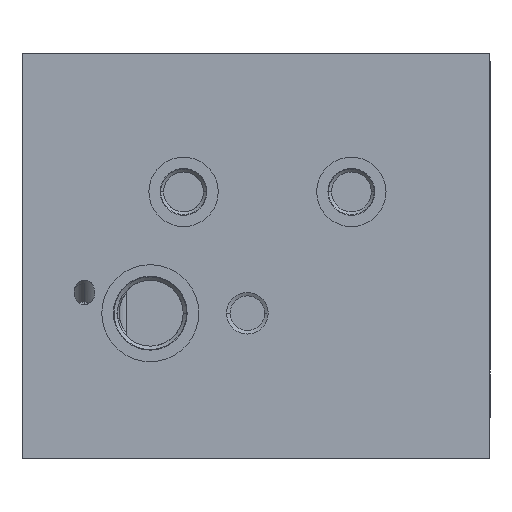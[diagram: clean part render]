
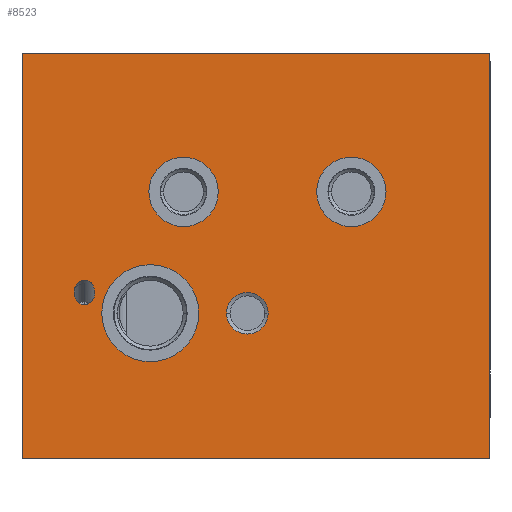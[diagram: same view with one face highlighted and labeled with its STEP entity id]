
A CAD part, left-side view. The second image highlights one B-rep face of the part: STEP entity #8523.
In plain terms, the highlighted planar face has unit normal (-1, 0, 0).
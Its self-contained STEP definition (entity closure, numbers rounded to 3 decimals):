
#542=DIRECTION('',(0.,0.,-1.));
#543=VECTOR('',#542,117.);
#544=CARTESIAN_POINT('',(-90.,0.,0.));
#545=LINE('',#544,#543);
#549=DIRECTION('',(0.,1.,0.));
#550=VECTOR('',#549,135.);
#551=CARTESIAN_POINT('',(-90.,0.,-117.));
#552=LINE('',#551,#550);
#556=DIRECTION('',(0.,0.,1.));
#557=VECTOR('',#556,117.);
#558=CARTESIAN_POINT('',(-90.,135.,-117.));
#559=LINE('',#558,#557);
#563=DIRECTION('',(0.,-1.,0.));
#564=VECTOR('',#563,135.);
#565=CARTESIAN_POINT('',(-90.,135.,0.));
#566=LINE('',#565,#564);
#570=CARTESIAN_POINT('',(-90.,70.,-75.));
#571=DIRECTION('',(1.,0.,0.));
#572=DIRECTION('',(0.,-1.,0.));
#573=AXIS2_PLACEMENT_3D('',#570,#571,#572);
#578=CARTESIAN_POINT('',(-90.,70.,-75.));
#579=DIRECTION('',(1.,0.,0.));
#580=DIRECTION('',(0.,1.,0.));
#581=AXIS2_PLACEMENT_3D('',#578,#579,#580);
#586=CARTESIAN_POINT('',(-90.,40.,-40.));
#587=DIRECTION('',(1.,0.,0.));
#588=DIRECTION('',(0.,-1.,0.));
#589=AXIS2_PLACEMENT_3D('',#586,#587,#588);
#594=CARTESIAN_POINT('',(-90.,40.,-40.));
#595=DIRECTION('',(1.,0.,0.));
#596=DIRECTION('',(0.,1.,0.));
#597=AXIS2_PLACEMENT_3D('',#594,#595,#596);
#602=CARTESIAN_POINT('',(-90.,120.,-69.));
#603=CARTESIAN_POINT('',(-90.,120.,-69.272));
#604=CARTESIAN_POINT('',(-90.,119.949,-69.766));
#605=CARTESIAN_POINT('',(-90.,119.771,-70.406));
#606=CARTESIAN_POINT('',(-90.,119.513,-70.965));
#607=CARTESIAN_POINT('',(-90.,119.184,-71.452));
#608=CARTESIAN_POINT('',(-90.,118.783,-71.869));
#609=CARTESIAN_POINT('',(-90.,118.306,-72.209));
#610=CARTESIAN_POINT('',(-90.,117.832,-72.416));
#611=CARTESIAN_POINT('',(-90.,117.387,-72.516));
#612=CARTESIAN_POINT('',(-90.,117.136,-72.538));
#613=CARTESIAN_POINT('',(-90.,117.,-72.538));
#618=CARTESIAN_POINT('',(-90.,88.4,-40.));
#619=DIRECTION('',(1.,0.,0.));
#620=DIRECTION('',(0.,-1.,0.));
#621=AXIS2_PLACEMENT_3D('',#618,#619,#620);
#626=CARTESIAN_POINT('',(-90.,88.4,-40.));
#627=DIRECTION('',(1.,0.,0.));
#628=DIRECTION('',(0.,1.,0.));
#629=AXIS2_PLACEMENT_3D('',#626,#627,#628);
#634=CARTESIAN_POINT('',(-90.,98.,-75.));
#635=DIRECTION('',(1.,0.,0.));
#636=DIRECTION('',(0.,-1.,0.));
#637=AXIS2_PLACEMENT_3D('',#634,#635,#636);
#642=CARTESIAN_POINT('',(-90.,98.,-75.));
#643=DIRECTION('',(1.,0.,0.));
#644=DIRECTION('',(0.,1.,0.));
#645=AXIS2_PLACEMENT_3D('',#642,#643,#644);
#6386=CARTESIAN_POINT('',(-90.,120.,-69.));
#6387=CARTESIAN_POINT('',(-90.,120.,-68.728));
#6388=CARTESIAN_POINT('',(-90.,119.947,-68.139));
#6389=CARTESIAN_POINT('',(-90.,119.631,-67.191));
#6390=CARTESIAN_POINT('',(-90.,119.03,-66.309));
#6391=CARTESIAN_POINT('',(-90.,118.17,-65.669));
#6392=CARTESIAN_POINT('',(-90.,117.344,-65.449));
#6393=CARTESIAN_POINT('',(-90.,116.701,-65.465));
#6394=CARTESIAN_POINT('',(-90.,116.245,-65.563));
#6395=CARTESIAN_POINT('',(-90.,115.828,-65.731));
#6396=CARTESIAN_POINT('',(-90.,115.458,-65.953));
#6397=CARTESIAN_POINT('',(-90.,115.193,-66.17));
#6398=CARTESIAN_POINT('',(-90.,115.005,-66.355));
#6399=CARTESIAN_POINT('',(-90.,114.878,-66.497));
#6400=CARTESIAN_POINT('',(-90.,114.757,-66.647));
#6401=CARTESIAN_POINT('',(-90.,114.6,-66.869));
#6402=CARTESIAN_POINT('',(-90.,114.416,-67.182));
#6403=CARTESIAN_POINT('',(-90.,114.227,-67.618));
#6404=CARTESIAN_POINT('',(-90.,114.085,-68.11));
#6405=CARTESIAN_POINT('',(-90.,114.002,-68.648));
#6406=CARTESIAN_POINT('',(-90.,113.989,-69.406));
#6407=CARTESIAN_POINT('',(-90.,114.175,-70.38));
#6408=CARTESIAN_POINT('',(-90.,114.718,-71.393));
#6409=CARTESIAN_POINT('',(-90.,115.466,-72.103));
#6410=CARTESIAN_POINT('',(-90.,116.27,-72.475));
#6411=CARTESIAN_POINT('',(-90.,116.769,-72.538));
#6412=CARTESIAN_POINT('',(-90.,117.,-72.538));
#7367=CARTESIAN_POINT('',(-90.,0.,0.));
#7368=CARTESIAN_POINT('',(-90.,0.,-117.));
#7369=VERTEX_POINT('',#7367);
#7370=VERTEX_POINT('',#7368);
#7371=CARTESIAN_POINT('',(-90.,135.,-117.));
#7372=VERTEX_POINT('',#7371);
#7373=CARTESIAN_POINT('',(-90.,135.,0.));
#7374=VERTEX_POINT('',#7373);
#7527=CARTESIAN_POINT('',(-90.,64.,-75.));
#7528=CARTESIAN_POINT('',(-90.,76.,-75.));
#7529=VERTEX_POINT('',#7527);
#7530=VERTEX_POINT('',#7528);
#7675=CARTESIAN_POINT('',(-90.,30.,-40.));
#7676=VERTEX_POINT('',#7675);
#7677=CARTESIAN_POINT('',(-90.,50.,-40.));
#7678=VERTEX_POINT('',#7677);
#7869=CARTESIAN_POINT('',(-90.,117.,-72.538));
#7870=VERTEX_POINT('',#7869);
#7880=CARTESIAN_POINT('',(-90.,120.,-69.));
#7882=VERTEX_POINT('',#7880);
#7928=CARTESIAN_POINT('',(-90.,78.4,-40.));
#7929=VERTEX_POINT('',#7928);
#7930=CARTESIAN_POINT('',(-90.,98.4,-40.));
#7931=VERTEX_POINT('',#7930);
#7982=CARTESIAN_POINT('',(-90.,84.,-75.));
#7983=VERTEX_POINT('',#7982);
#7984=CARTESIAN_POINT('',(-90.,112.,-75.));
#7985=VERTEX_POINT('',#7984);
#8482=CARTESIAN_POINT('',(-90.,0.,0.));
#8483=DIRECTION('',(1.,0.,0.));
#8484=DIRECTION('',(0.,0.,-1.));
#8485=AXIS2_PLACEMENT_3D('',#8482,#8483,#8484);
#8486=PLANE('',#8485);
#8487=ORIENTED_EDGE('',*,*,#8272,.T.);
#8488=ORIENTED_EDGE('',*,*,#8347,.T.);
#8489=ORIENTED_EDGE('',*,*,#8397,.T.);
#8490=ORIENTED_EDGE('',*,*,#8446,.T.);
#8491=EDGE_LOOP('',(#8487,#8488,#8489,#8490));
#8492=FACE_OUTER_BOUND('',#8491,.F.);
#8494=ORIENTED_EDGE('',*,*,#8493,.F.);
#8496=ORIENTED_EDGE('',*,*,#8495,.F.);
#8497=EDGE_LOOP('',(#8494,#8496));
#8498=FACE_BOUND('',#8497,.F.);
#8500=ORIENTED_EDGE('',*,*,#8499,.F.);
#8502=ORIENTED_EDGE('',*,*,#8501,.F.);
#8503=EDGE_LOOP('',(#8500,#8502));
#8504=FACE_BOUND('',#8503,.F.);
#8506=ORIENTED_EDGE('',*,*,#8505,.F.);
#8508=ORIENTED_EDGE('',*,*,#8507,.T.);
#8509=EDGE_LOOP('',(#8506,#8508));
#8510=FACE_BOUND('',#8509,.F.);
#8512=ORIENTED_EDGE('',*,*,#8511,.F.);
#8514=ORIENTED_EDGE('',*,*,#8513,.F.);
#8515=EDGE_LOOP('',(#8512,#8514));
#8516=FACE_BOUND('',#8515,.F.);
#8518=ORIENTED_EDGE('',*,*,#8517,.F.);
#8520=ORIENTED_EDGE('',*,*,#8519,.F.);
#8521=EDGE_LOOP('',(#8518,#8520));
#8522=FACE_BOUND('',#8521,.F.);
#574=CIRCLE('',#573,6.);
#582=CIRCLE('',#581,6.);
#590=CIRCLE('',#589,10.);
#598=CIRCLE('',#597,10.);
#614=B_SPLINE_CURVE_WITH_KNOTS('',3,(#602,#603,#604,#605,#606,#607,#608,#609,
#610,#611,#612,#613),.UNSPECIFIED.,.F.,.F.,(4,1,1,1,1,1,1,1,1,4),(0.,0.125,
0.25,0.375,0.5,0.625,0.75,0.875,0.938,1.),.UNSPECIFIED.);
#622=CIRCLE('',#621,10.);
#630=CIRCLE('',#629,10.);
#638=CIRCLE('',#637,14.);
#646=CIRCLE('',#645,14.);
#6413=B_SPLINE_CURVE_WITH_KNOTS('',3,(#6386,#6387,#6388,#6389,#6390,#6391,#6392,
#6393,#6394,#6395,#6396,#6397,#6398,#6399,#6400,#6401,#6402,#6403,#6404,#6405,
#6406,#6407,#6408,#6409,#6410,#6411,#6412),.UNSPECIFIED.,.F.,.F.,(4,1,1,1,1,1,1,
1,1,1,1,1,1,1,1,1,1,1,1,1,1,1,1,1,4),(0.,0.063,0.125,0.188,0.25,
0.313,0.344,0.375,0.406,0.438,0.469,0.484,0.5,
0.516,0.531,0.563,0.594,0.625,0.656,0.688,0.75,
0.813,0.875,0.938,1.),.UNSPECIFIED.);
#8272=EDGE_CURVE('',#7369,#7370,#545,.T.);
#8347=EDGE_CURVE('',#7370,#7372,#552,.T.);
#8397=EDGE_CURVE('',#7372,#7374,#559,.T.);
#8446=EDGE_CURVE('',#7374,#7369,#566,.T.);
#8493=EDGE_CURVE('',#7529,#7530,#574,.T.);
#8495=EDGE_CURVE('',#7530,#7529,#582,.T.);
#8499=EDGE_CURVE('',#7676,#7678,#590,.T.);
#8501=EDGE_CURVE('',#7678,#7676,#598,.T.);
#8505=EDGE_CURVE('',#7882,#7870,#6413,.T.);
#8507=EDGE_CURVE('',#7882,#7870,#614,.T.);
#8511=EDGE_CURVE('',#7929,#7931,#622,.T.);
#8513=EDGE_CURVE('',#7931,#7929,#630,.T.);
#8517=EDGE_CURVE('',#7983,#7985,#638,.T.);
#8519=EDGE_CURVE('',#7985,#7983,#646,.T.);
#8523=ADVANCED_FACE('',(#8492,#8498,#8504,#8510,#8516,#8522),#8486,.F.);
